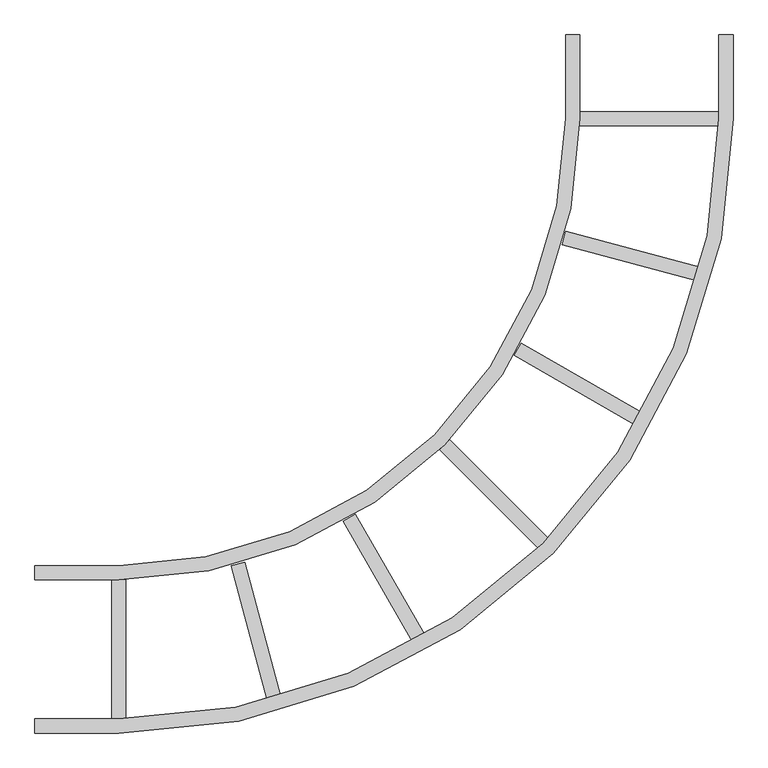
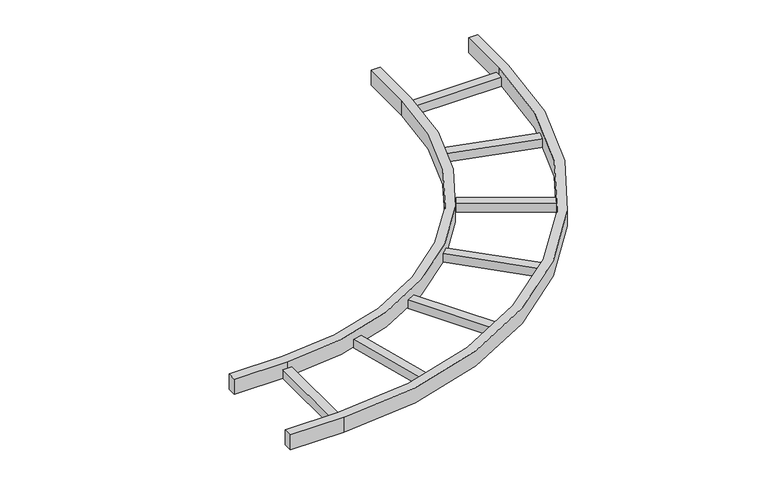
"""IFC4 building model written with IfcOpenShell, lengths in millimetres: cable carrier fitting geometry, BAKS_LD_BEND_Horizontal bend external_LDZ : LDZC_H45."""

import ifcopenshell
import ifcopenshell.guid

model = None  # the IFC model being written
_history = None  # IfcOwnerHistory: only IFC2X3 demands one
_inside = {}  # id of a spatial element -> (the spatial element, [elements in it])
_under = {}  # id of a project, library or spatial element -> (it, [spatial elements below it])
_declared = {}  # id of a project -> (the project, [libraries it declares])
_typed = {}  # id of a type object -> (the type object, [elements of that type])
_made_of = {}  # id of a material, layer set ... -> (it, [elements and type objects made of it])


def new_model(schema):
    """Start an empty IFC model of exactly this schema.

    Asked for "IFC4X3", IfcOpenShell would pick the latest addendum, in which some entities
    have other attributes; the version numbers below select the first issue.
    IFC2X3 requires an IfcOwnerHistory on every rooted entity: one is made here for all.
    """
    global model, _history
    if schema == "IFC4X3":
        model = ifcopenshell.file(schema_version=(4, 3, 0, 0))
    else:
        model = ifcopenshell.file(schema=schema)
    _inside.clear()
    _under.clear()
    _declared.clear()
    _typed.clear()
    _made_of.clear()
    _history = None
    if model.schema == "IFC2X3":
        org = make("IfcOrganization", Name="unknown")
        user = make(
            "IfcPersonAndOrganization",
            ThePerson=make("IfcPerson", FamilyName="unknown"),
            TheOrganization=org,
        )
        app = make(
            "IfcApplication",
            ApplicationDeveloper=org,
            Version="unknown",
            ApplicationFullName="unknown",
            ApplicationIdentifier="unknown",
        )
        _history = make(
            "IfcOwnerHistory",
            OwningUser=user,
            OwningApplication=app,
            ChangeAction="ADDED",
            CreationDate=0,
        )
    return model


def make(cls, **values):
    """One entity of the class cls with the attributes given. An attribute that is None is left unset."""
    return model.create_entity(
        cls, **{name: value for name, value in values.items() if value is not None}
    )


def rooted(cls, **values):
    """An entity with a GlobalId (a new one), such as an element, a storey or a relation."""
    return make(cls, GlobalId=ifcopenshell.guid.new(), OwnerHistory=_history, **values)


def si_unit(unit_type, name, prefix=None):
    """IfcSIUnit, for example si_unit("LENGTHUNIT", "METRE", prefix="MILLI")."""
    return make("IfcSIUnit", UnitType=unit_type, Prefix=prefix, Name=name)


def assignment(units):
    """IfcUnitAssignment: the units of a project."""
    return None if units is None else make("IfcUnitAssignment", Units=units)


def point(xyz):
    """IfcCartesianPoint."""
    return None if xyz is None else make("IfcCartesianPoint", Coordinates=xyz)


def direction(xyz):
    """IfcDirection."""
    return None if xyz is None else make("IfcDirection", DirectionRatios=xyz)


def frame(location, z_axis=None, x_axis=None):
    """IfcAxis2Placement3D, a coordinate frame: its origin and axes. An axis left out is left unset."""
    return make(
        "IfcAxis2Placement3D",
        Location=point(location),
        Axis=direction(z_axis),
        RefDirection=direction(x_axis),
    )


def frame_2d(location, x_axis=None):
    """IfcAxis2Placement2D, a coordinate frame in the plane: its origin and x axis."""
    return make(
        "IfcAxis2Placement2D", Location=point(location), RefDirection=direction(x_axis)
    )


def origin():
    """The frame at (0, 0, 0) with its axes left unset."""
    return frame((0.0, 0.0, 0.0))


def place(relative_to, where):
    """IfcLocalPlacement: puts the frame where relative to a parent placement (None: the world)."""
    return make(
        "IfcLocalPlacement", PlacementRelTo=relative_to, RelativePlacement=where
    )


def context(
    kind, dimensions, precision=None, world=None, true_north=None, identifier=None
):
    """IfcGeometricRepresentationContext, for example the 3D "Model" context."""
    return make(
        "IfcGeometricRepresentationContext",
        ContextIdentifier=identifier,
        ContextType=kind,
        CoordinateSpaceDimension=dimensions,
        Precision=precision,
        WorldCoordinateSystem=world,
        TrueNorth=true_north,
    )


def project(units=None, contexts=None):
    """IfcProject with its units and contexts."""
    return rooted(
        "IfcProject",
        Name="project",
        RepresentationContexts=contexts,
        UnitsInContext=assignment(units),
    )


def spatial(cls, under=None, at=None, **own):
    """A site, building, storey or space (cls), placed at a placement, below another one or the project."""
    s = rooted(cls, ObjectPlacement=at, **own)
    if under is not None:
        _under.setdefault(under.id(), (under, []))[1].append(s)
    return s


def polyline(points):
    """IfcPolyline through the points."""
    return make("IfcPolyline", Points=[point(p) for p in points])


def circle_curve(where, radius):
    """IfcCircle in the frame where."""
    return make("IfcCircle", Position=where, Radius=radius)


def trimmed(basis, trim1, trim2, sense, master):
    """IfcTrimmedCurve: the piece of a basis curve between two trims."""
    return make(
        "IfcTrimmedCurve",
        BasisCurve=basis,
        Trim1=trim1,
        Trim2=trim2,
        SenseAgreement=sense,
        MasterRepresentation=master,
    )


def segment(curve, same_sense, transition):
    """IfcCompositeCurveSegment."""
    return make(
        "IfcCompositeCurveSegment",
        Transition=transition,
        SameSense=same_sense,
        ParentCurve=curve,
    )


def composite_curve(segments, self_intersect=None):
    """IfcCompositeCurve: segments joined end to end."""
    return make("IfcCompositeCurve", Segments=segments, SelfIntersect=self_intersect)


def outline(outer, holes=None, kind="AREA"):
    """IfcArbitraryClosedProfileDef: a profile drawn as a closed curve; with holes, ...WithVoids."""
    if holes is None:
        return make("IfcArbitraryClosedProfileDef", ProfileType=kind, OuterCurve=outer)
    return make(
        "IfcArbitraryProfileDefWithVoids",
        ProfileType=kind,
        OuterCurve=outer,
        InnerCurves=holes,
    )


def extrude(swept, where, along, depth):
    """IfcExtrudedAreaSolid: the profile swept, set in the frame where, extruded along a direction by depth."""
    return make(
        "IfcExtrudedAreaSolid",
        SweptArea=swept,
        Position=where,
        ExtrudedDirection=direction(along),
        Depth=depth,
    )


def shape(context_of_items, identifier, shape_type, items):
    """IfcShapeRepresentation: the items that make up one representation, for example the "Body"."""
    return make(
        "IfcShapeRepresentation",
        ContextOfItems=context_of_items,
        RepresentationIdentifier=identifier,
        RepresentationType=shape_type,
        Items=items,
    )


def source(mapping_origin, context_of_items, identifier, shape_type, items):
    """IfcRepresentationMap: a shape defined once, which mapped items show again and again."""
    return make(
        "IfcRepresentationMap",
        MappingOrigin=mapping_origin,
        MappedRepresentation=shape(context_of_items, identifier, shape_type, items),
    )


def transform(
    local_origin,
    x_axis=None,
    y_axis=None,
    z_axis=None,
    scale=None,
    scale2=None,
    scale3=None,
    uniform=True,
):
    """IfcCartesianTransformationOperator3D, or its non-uniform kind. x_axis, y_axis, z_axis: its Axis1, 2, 3."""
    if uniform:
        return make(
            "IfcCartesianTransformationOperator3D",
            Axis1=direction(x_axis),
            Axis2=direction(y_axis),
            LocalOrigin=point(local_origin),
            Scale=scale,
            Axis3=direction(z_axis),
        )
    return make(
        "IfcCartesianTransformationOperator3DnonUniform",
        Axis1=direction(x_axis),
        Axis2=direction(y_axis),
        LocalOrigin=point(local_origin),
        Scale=scale,
        Axis3=direction(z_axis),
        Scale2=scale2,
        Scale3=scale3,
    )


def mapped(mapping_source, mapping_target):
    """IfcMappedItem: shows the shape of a source again, moved by a transform."""
    return make(
        "IfcMappedItem", MappingSource=mapping_source, MappingTarget=mapping_target
    )


def made_of(thing, what):
    """Note that an element or type object is made of a material, layer set ...; save() writes the relation."""
    if what is not None:
        _made_of.setdefault(what.id(), (what, []))[1].append(thing)
    return thing


def element(
    cls,
    number,
    at=None,
    inside=None,
    cuts=None,
    type_object=None,
    material=None,
    context=None,
    identifier="Body",
    shape_type=None,
    held_by="IfcProductDefinitionShape",
    body=None,
    shapes=None,
    **own,
):
    """One element of the class cls, such as IfcWall. Its Tag is "e" and its number.

    at: its placement. inside: the storey or other place that contains it. cuts: it is an
    opening in that element (IfcRelVoidsElement). A single representation is given by context,
    identifier, shape_type and body (its items); several are given by shapes. held_by: the class
    of the entity that holds the representations. save() writes the other relations.
    """
    e = rooted(cls, Tag="e%d" % number, ObjectPlacement=at, **own)
    if body is not None:
        shapes = [shape(context, identifier, shape_type, body)]
    if shapes is not None:
        e.Representation = make(held_by, Representations=shapes)
    if inside is not None:
        _inside.setdefault(inside.id(), (inside, []))[1].append(e)
    if cuts is not None:
        rooted(
            "IfcRelVoidsElement", RelatingBuildingElement=cuts, RelatedOpeningElement=e
        )
    if type_object is not None:
        _typed.setdefault(type_object.id(), (type_object, []))[1].append(e)
    return made_of(e, material)


def aggregate(whole, parts):
    """IfcRelAggregates: a whole, such as a stair, and the parts it consists of."""
    return rooted("IfcRelAggregates", RelatingObject=whole, RelatedObjects=parts)


def save(model, path):
    """Write the relations noted so far, then the file.

    IfcRelAggregates (storeys below a building ...), IfcRelContainedInSpatialStructure (elements
    in a storey), IfcRelDefinesByType, IfcRelAssociatesMaterial and IfcRelDeclares: one each for
    every whole, place, type object, material and project.
    """
    for whole, parts in _under.values():
        aggregate(whole, parts)
    for where, things in _inside.values():
        rooted(
            "IfcRelContainedInSpatialStructure",
            RelatedElements=things,
            RelatingStructure=where,
        )
    for kind, things in _typed.values():
        rooted("IfcRelDefinesByType", RelatedObjects=things, RelatingType=kind)
    for what, things in _made_of.values():
        rooted("IfcRelAssociatesMaterial", RelatedObjects=things, RelatingMaterial=what)
    for by, libraries in _declared.values():
        rooted("IfcRelDeclares", RelatingContext=by, RelatedDefinitions=libraries)
    model.write(path)


def cable_carrier_fitting_cb814f34(model_context):
    return source(origin(), model_context, "Body", "SweptSolid", [
        extrude(outline(polyline([(-375.3343189, 357.3738067), (-357.3738067, 375.3343189), (-181.1627968, 199.1233091), (-199.1233091, 181.1627968), (-375.3343189, 357.3738067)])), frame((0.0, 0.0, -22.5), z_axis=(0.0, 0.0, 1.0), x_axis=(1.0, 0.0, 0.0)), (0.0, 0.0, 1.0), 25.4),
        extrude(outline(polyline([(-548.2985226, 228.8326317), (-526.3014774, 241.5326317), (-401.7014774, 25.7191011), (-423.6985226, 13.0191011), (-548.2985226, 228.8326317)])), frame((0.0, 0.0, -22.5), z_axis=(0.0, 0.0, 1.0), x_axis=(1.0, 0.0, 0.0)), (0.0, 0.0, 1.0), 25.4),
        extrude(outline(polyline([(-156.0118249, 724.1035022), (-149.4378211, 748.6380182), (91.2708948, 684.1403121), (84.6968911, 659.6057961), (-156.0118249, 724.1035022)])), frame((0.0, 0.0, -22.5), z_axis=(0.0, 0.0, 1.0), x_axis=(1.0, 0.0, 0.0)), (0.0, 0.0, 1.0), 25.4),
        extrude(outline(polyline([(-241.5326317, 526.3014774), (-228.8326317, 548.2985226), (-13.0191011, 423.6985226), (-25.7191011, 401.7014774), (-241.5326317, 526.3014774)])), frame((0.0, 0.0, -22.5), z_axis=(0.0, 0.0, 1.0), x_axis=(1.0, 0.0, 0.0)), (0.0, 0.0, 1.0), 25.4),
        extrude(outline(polyline([(-124.6, 937.3), (-124.6, 962.7), (124.6, 962.7), (124.6, 937.3), (-124.6, 937.3)])), frame((0.0, 0.0, -22.5), z_axis=(0.0, 0.0, 1.0), x_axis=(1.0, 0.0, 0.0)), (0.0, 0.0, 1.0), 25.4),
        extrude(outline(polyline([(-962.7, 124.6), (-937.3, 124.6), (-937.3, -124.6), (-962.7, -124.6), (-962.7, 124.6)])), frame((0.0, 0.0, -22.5), z_axis=(0.0, 0.0, 1.0), x_axis=(1.0, 0.0, 0.0)), (0.0, 0.0, 1.0), 25.4),
        extrude(outline(polyline([(-748.6380182, 149.4378211), (-724.1035022, 156.0118249), (-659.6057961, -84.6968911), (-684.1403121, -91.2708948), (-748.6380182, 149.4378211)])), frame((0.0, 0.0, -22.5), z_axis=(0.0, 0.0, 1.0), x_axis=(1.0, 0.0, 0.0)), (0.0, 0.0, 1.0), 25.4),
        extrude(outline(composite_curve([segment(polyline([(-1100.0, -150.0), (-1100.0, -124.6), (-950.0, -124.6)]), True, "CONTINUOUS"), segment(trimmed(circle_curve(frame_2d((-950.0, 950.0)), 1074.6), [point((-950.0, -124.6))], [point((124.6, 950.0))], True, "CARTESIAN"), True, "CONTINUOUS"), segment(polyline([(124.6, 950.0), (124.6, 1100.0), (150.0, 1100.0), (150.0, 950.0)]), True, "CONTINUOUS"), segment(trimmed(circle_curve(frame_2d((-950.0, 950.0)), 1100.0), [point((150.0, 950.0))], [point((-950.0, -150.0))], False, "CARTESIAN"), True, "CONTINUOUS"), segment(polyline([(-950.0, -150.0), (-1100.0, -150.0)]), True, "CONTINUOUS")], self_intersect=False)), frame((0.0, 0.0, -22.5), z_axis=(0.0, 0.0, 1.0), x_axis=(1.0, 0.0, 0.0)), (0.0, 0.0, 1.0), 45.0),
        extrude(outline(composite_curve([segment(polyline([(-1100.0, 124.6), (-1100.0, 150.0), (-950.0, 150.0)]), True, "CONTINUOUS"), segment(trimmed(circle_curve(frame_2d((-950.0, 950.0)), 800.0), [point((-950.0, 150.0))], [point((-150.0, 950.0))], True, "CARTESIAN"), True, "CONTINUOUS"), segment(polyline([(-150.0, 950.0), (-150.0, 1100.0), (-124.6, 1100.0), (-124.6, 950.0)]), True, "CONTINUOUS"), segment(trimmed(circle_curve(frame_2d((-950.0, 950.0)), 825.4), [point((-124.6, 950.0))], [point((-950.0, 124.6))], False, "CARTESIAN"), True, "CONTINUOUS"), segment(polyline([(-950.0, 124.6), (-1100.0, 124.6)]), True, "CONTINUOUS")], self_intersect=False)), frame((0.0, 0.0, -22.5), z_axis=(0.0, 0.0, 1.0), x_axis=(1.0, 0.0, 0.0)), (0.0, 0.0, 1.0), 45.0),
    ])


if __name__ == "__main__":
    model = new_model("IFC4")
    model_context = context("Model", 3, world=origin())
    ifc_project = project(units=[si_unit("LENGTHUNIT", "METRE", prefix="MILLI")], contexts=[model_context])
    site = spatial("IfcSite", under=ifc_project)
    building = spatial("IfcBuilding", under=site)
    placement = place(None, origin())
    cable_carrier_fitting_shape = cable_carrier_fitting_cb814f34(model_context)
    element("IfcCableCarrierFitting", 1, ObjectType="BAKS_LD_BEND_Horizontal bend external_LDZ : LDZC_H45", at=placement, inside=building, context=model_context, shape_type="MappedRepresentation", body=[
        mapped(cable_carrier_fitting_shape, transform((0.0, 0.0, 0.0), x_axis=(1.0, 0.0, 0.0), y_axis=(0.0, 1.0, 0.0), z_axis=(0.0, 0.0, 1.0))),
    ])
    save(model, "model.ifc")
